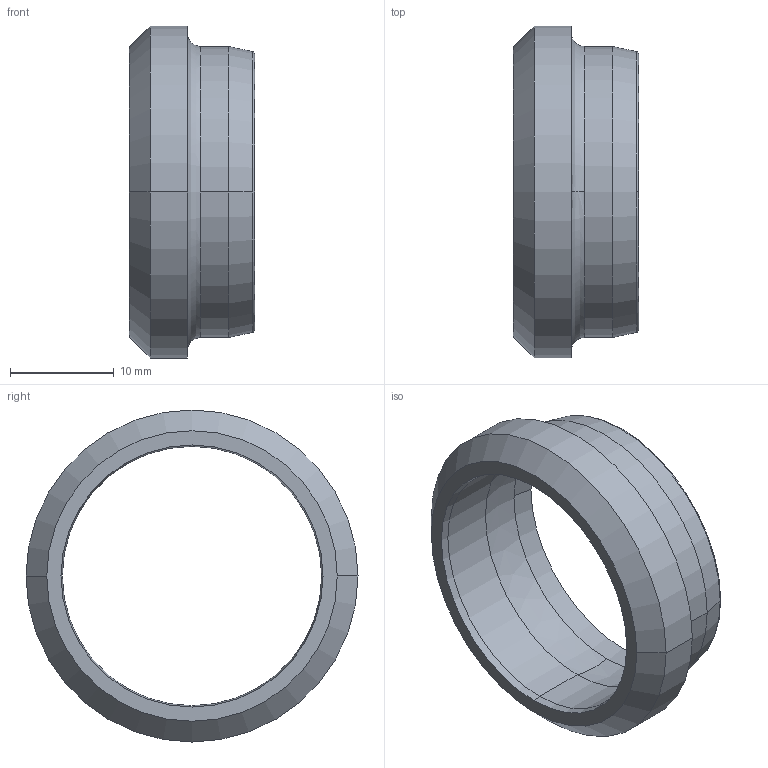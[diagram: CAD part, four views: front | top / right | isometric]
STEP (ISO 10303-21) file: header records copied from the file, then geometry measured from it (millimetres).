
FILE_DESCRIPTION((''),'2;1');
FILE_NAME('100121.stp','2006-03-06T15:06:00',('Dario Falcomer'),('CAST S.p.A.'),'AutoCAD STEP 2000i','AutoCAD 2000i',', , ');
FILE_SCHEMA(('CONFIG_CONTROL_DESIGN'));
Length unit declared in the file: millimetre
Products named in the file (2): 100121.0; 1001ESTERNO#0
Assembly tree (1 placements, depth 2):
  100121.0
    1001ESTERNO#0
Bounding box: 12.07 x 32 x 32 mm (x, y, z)
Volume: 2232.9 mm3; surface area: 2519.6 mm2
Topology: 1 solids, 1 shells, 28 faces, 67 edges, 43 vertices
Faces by surface type: bspline 8, cone 8, cylinder 6, plane 4, torus 2
Entity records: 1241 total; most frequent: CARTESIAN_POINT 456, DIRECTION 164, ORIENTED_EDGE 134, AXIS2_PLACEMENT_3D 75, EDGE_CURVE 67, CIRCLE 53, VERTEX_POINT 43, EDGE_LOOP 32
